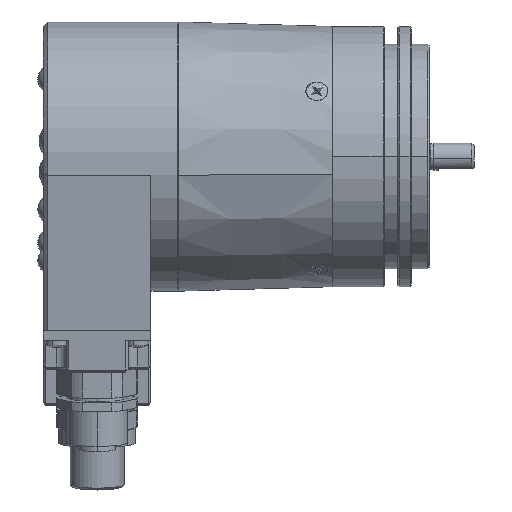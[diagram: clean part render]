
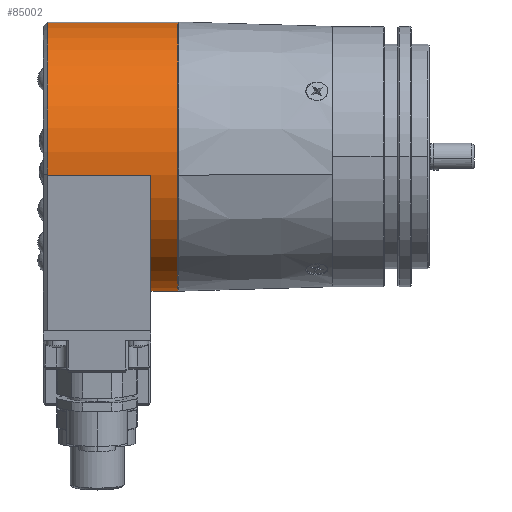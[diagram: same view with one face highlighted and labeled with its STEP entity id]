
A CAD part, top view. The second image highlights one B-rep face of the part: STEP entity #85002.
In plain terms, the highlighted cylindrical face has radius 30 mm (diameter 60 mm), a partial arc.
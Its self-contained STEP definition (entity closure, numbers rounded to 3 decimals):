
#15440 = CARTESIAN_POINT ( 'NONE',  ( -27., -29.708, -4.175 ) ) ;
#15660 = CARTESIAN_POINT ( 'NONE',  ( -27., 29.708, 4.175 ) ) ;
#15720 = DIRECTION ( 'NONE',  ( -1., 0., 0. ) ) ;
#15721 = VECTOR ( 'NONE', #15720, 1000. ) ;
#15722 = CARTESIAN_POINT ( 'NONE',  ( -27., -29.708, -4.175 ) ) ;
#15727 = LINE ( 'NONE', #15722, #15721 ) ;
#15808 = CARTESIAN_POINT ( 'NONE',  ( -33., -29.708, -4.175 ) ) ;
#16176 = DIRECTION ( 'NONE',  ( -1., 0., 0. ) ) ;
#16177 = VECTOR ( 'NONE', #16176, 1000. ) ;
#16178 = CARTESIAN_POINT ( 'NONE',  ( -27., 29.708, 4.175 ) ) ;
#16179 = LINE ( 'NONE', #16178, #16177 ) ;
#20412 = DIRECTION ( 'NONE',  ( 0., -0.99, -0.139 ) ) ;
#20413 = DIRECTION ( 'NONE',  ( 1., 0., 0. ) ) ;
#20414 = CARTESIAN_POINT ( 'NONE',  ( -27., 0., 0. ) ) ;
#20415 = AXIS2_PLACEMENT_3D ( 'NONE', #20414, #20413, #20412 ) ;
#20416 = CIRCLE ( 'NONE', #20415, 30. ) ;
#20512 = FACE_OUTER_BOUND ( 'NONE', #85003, .T. ) ;
#20549 = DIRECTION ( 'NONE',  ( 0., 0.99, 0.139 ) ) ;
#20550 = DIRECTION ( 'NONE',  ( -1., 0., 0. ) ) ;
#20551 = AXIS2_PLACEMENT_3D ( 'NONE', #20553, #20550, #20549 ) ;
#20552 = CYLINDRICAL_SURFACE ( 'NONE', #20551, 30. ) ;
#20553 = CARTESIAN_POINT ( 'NONE',  ( -27., 0., 0. ) ) ;
#75292 = CARTESIAN_POINT ( 'NONE',  ( -56., 29.708, 4.175 ) ) ;
#82084 = DIRECTION ( 'NONE',  ( 0., 0.139, -0.99 ) ) ;
#82086 = DIRECTION ( 'NONE',  ( -1., 0., 0. ) ) ;
#82087 = CARTESIAN_POINT ( 'NONE',  ( -33., 0., 0. ) ) ;
#82089 = AXIS2_PLACEMENT_3D ( 'NONE', #82087, #82086, #82084 ) ;
#82091 = CIRCLE ( 'NONE', #82089, 30. ) ;
#82132 = VERTEX_POINT ( 'NONE', #15440 ) ;
#82257 = VERTEX_POINT ( 'NONE', #15660 ) ;
#82287 = EDGE_CURVE ( 'NONE', #82132, #82352, #15727, .T. ) ;
#82352 = VERTEX_POINT ( 'NONE', #15808 ) ;
#82567 = EDGE_CURVE ( 'NONE', #82257, #107338, #16179, .T. ) ;
#84963 = EDGE_CURVE ( 'NONE', #82257, #82132, #20416, .T. ) ;
#84968 = ORIENTED_EDGE ( 'NONE', *, *, #82567, .T. ) ;
#84970 = ORIENTED_EDGE ( 'NONE', *, *, #112791, .T. ) ;
#85002 = ADVANCED_FACE ( 'NONE', ( #20512 ), #20552, .T. ) ;
#85003 = EDGE_LOOP ( 'NONE', ( #85004, #85006, #84968, #84970, #112793, #112795 ) ) ;
#85004 = ORIENTED_EDGE ( 'NONE', *, *, #82287, .F. ) ;
#85006 = ORIENTED_EDGE ( 'NONE', *, *, #84963, .F. ) ;
#92141 = DIRECTION ( 'NONE',  ( -1., 0., 0. ) ) ;
#92142 = VECTOR ( 'NONE', #92141, 1000. ) ;
#92143 = CARTESIAN_POINT ( 'NONE',  ( -33., -4.175, 29.708 ) ) ;
#92144 = LINE ( 'NONE', #92143, #92142 ) ;
#92145 = CARTESIAN_POINT ( 'NONE',  ( -56., -4.175, 29.708 ) ) ;
#92146 = DIRECTION ( 'NONE',  ( 0., -0.99, -0.139 ) ) ;
#92147 = DIRECTION ( 'NONE',  ( 1., 0., 0. ) ) ;
#92148 = AXIS2_PLACEMENT_3D ( 'NONE', #92154, #92147, #92146 ) ;
#92149 = CIRCLE ( 'NONE', #92148, 30. ) ;
#92154 = CARTESIAN_POINT ( 'NONE',  ( -56., 0., 0. ) ) ;
#92189 = CARTESIAN_POINT ( 'NONE',  ( -33., -4.175, 29.708 ) ) ;
#107338 = VERTEX_POINT ( 'NONE', #75292 ) ;
#109600 = EDGE_CURVE ( 'NONE', #82352, #112800, #82091, .T. ) ;
#112791 = EDGE_CURVE ( 'NONE', #107338, #112792, #92149, .T. ) ;
#112792 = VERTEX_POINT ( 'NONE', #92145 ) ;
#112793 = ORIENTED_EDGE ( 'NONE', *, *, #112797, .F. ) ;
#112795 = ORIENTED_EDGE ( 'NONE', *, *, #109600, .F. ) ;
#112797 = EDGE_CURVE ( 'NONE', #112800, #112792, #92144, .T. ) ;
#112800 = VERTEX_POINT ( 'NONE', #92189 ) ;
